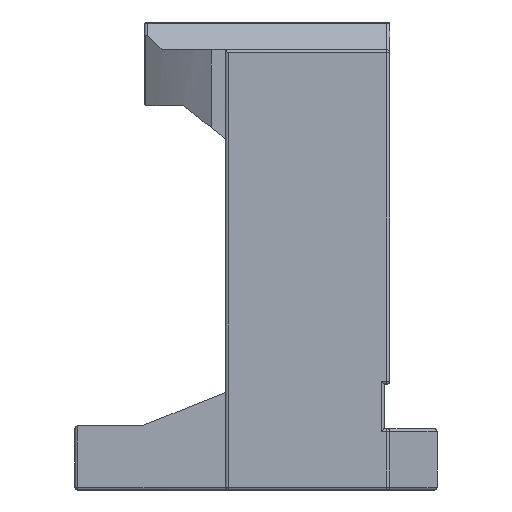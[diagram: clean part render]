
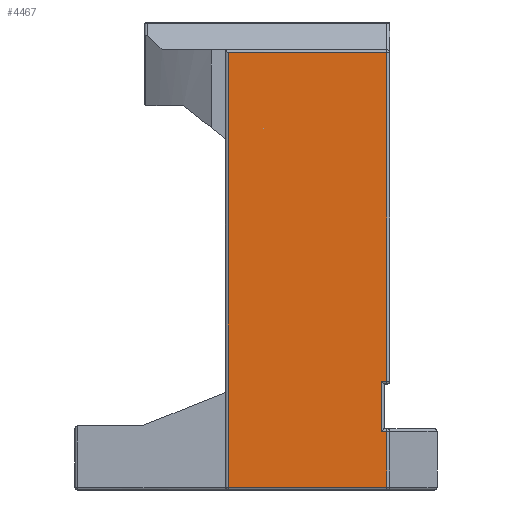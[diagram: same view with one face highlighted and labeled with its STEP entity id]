
A CAD part, left-side view. The second image highlights one B-rep face of the part: STEP entity #4467.
In plain terms, the highlighted planar face has unit normal (-1, 0, 0).
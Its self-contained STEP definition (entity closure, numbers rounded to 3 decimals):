
#160 = LINE ( 'NONE', #1515, #4992 ) ;
#319 = VECTOR ( 'NONE', #4085, 1000. ) ;
#434 = DIRECTION ( 'NONE',  ( 0., -1., 0. ) ) ;
#502 = DIRECTION ( 'NONE',  ( 0., 0., 1. ) ) ;
#645 = EDGE_CURVE ( 'NONE', #4761, #806, #1297, .T. ) ;
#712 = VERTEX_POINT ( 'NONE', #4278 ) ;
#787 = ORIENTED_EDGE ( 'NONE', *, *, #2592, .T. ) ;
#806 = VERTEX_POINT ( 'NONE', #3774 ) ;
#935 = DIRECTION ( 'NONE',  ( 0., 1., 0. ) ) ;
#1046 = VERTEX_POINT ( 'NONE', #3502 ) ;
#1064 = VECTOR ( 'NONE', #2744, 1000. ) ;
#1297 = LINE ( 'NONE', #1504, #319 ) ;
#1504 = CARTESIAN_POINT ( 'NONE',  ( -75., -45., 23. ) ) ;
#1515 = CARTESIAN_POINT ( 'NONE',  ( -75., 10., 23. ) ) ;
#1529 = CARTESIAN_POINT ( 'NONE',  ( -75., -47., 21. ) ) ;
#1568 = CARTESIAN_POINT ( 'NONE',  ( -75., 10., 157. ) ) ;
#1718 = DIRECTION ( 'NONE',  ( 0., 1., 0. ) ) ;
#1874 = DIRECTION ( 'NONE',  ( 0., 0., 1. ) ) ;
#2103 = EDGE_CURVE ( 'NONE', #712, #1046, #2496, .T. ) ;
#2183 = VECTOR ( 'NONE', #502, 1000. ) ;
#2212 = VECTOR ( 'NONE', #5241, 1000. ) ;
#2420 = VERTEX_POINT ( 'NONE', #4582 ) ;
#2496 = LINE ( 'NONE', #6223, #2637 ) ;
#2592 = EDGE_CURVE ( 'NONE', #806, #3797, #3497, .T. ) ;
#2616 = EDGE_CURVE ( 'NONE', #1046, #2803, #5919, .T. ) ;
#2637 = VECTOR ( 'NONE', #434, 1000. ) ;
#2658 = PLANE ( 'NONE',  #3043 ) ;
#2744 = DIRECTION ( 'NONE',  ( 0., 1., 0. ) ) ;
#2803 = VERTEX_POINT ( 'NONE', #1529 ) ;
#2805 = ORIENTED_EDGE ( 'NONE', *, *, #3985, .T. ) ;
#2837 = ORIENTED_EDGE ( 'NONE', *, *, #5402, .T. ) ;
#3043 = AXIS2_PLACEMENT_3D ( 'NONE', #3150, #4619, #1718 ) ;
#3045 = ORIENTED_EDGE ( 'NONE', *, *, #645, .T. ) ;
#3150 = CARTESIAN_POINT ( 'NONE',  ( -75., 72.5, 23. ) ) ;
#3237 = LINE ( 'NONE', #3335, #4380 ) ;
#3289 = CARTESIAN_POINT ( 'NONE',  ( -75., 72.5, 39. ) ) ;
#3306 = CARTESIAN_POINT ( 'NONE',  ( -75., -47., 22. ) ) ;
#3335 = CARTESIAN_POINT ( 'NONE',  ( -75., 72.5, 21. ) ) ;
#3497 = LINE ( 'NONE', #3289, #2212 ) ;
#3502 = CARTESIAN_POINT ( 'NONE',  ( -75., -47., 1. ) ) ;
#3772 = LINE ( 'NONE', #4708, #1064 ) ;
#3774 = CARTESIAN_POINT ( 'NONE',  ( -75., -45., 39. ) ) ;
#3797 = VERTEX_POINT ( 'NONE', #4049 ) ;
#3876 = CARTESIAN_POINT ( 'NONE',  ( -75., -47., 23. ) ) ;
#3985 = EDGE_CURVE ( 'NONE', #2420, #4271, #3772, .T. ) ;
#4049 = CARTESIAN_POINT ( 'NONE',  ( -75., -47., 39. ) ) ;
#4085 = DIRECTION ( 'NONE',  ( 0., 0., 1. ) ) ;
#4271 = VERTEX_POINT ( 'NONE', #1568 ) ;
#4278 = CARTESIAN_POINT ( 'NONE',  ( -75., 10., 1. ) ) ;
#4380 = VECTOR ( 'NONE', #935, 1000. ) ;
#4467 = ADVANCED_FACE ( 'NONE', ( #4764 ), #2658, .F. ) ;
#4582 = CARTESIAN_POINT ( 'NONE',  ( -75., -47., 157. ) ) ;
#4619 = DIRECTION ( 'NONE',  ( 1., 0., 0. ) ) ;
#4643 = EDGE_CURVE ( 'NONE', #4271, #712, #160, .T. ) ;
#4708 = CARTESIAN_POINT ( 'NONE',  ( -75., 72.5, 157. ) ) ;
#4761 = VERTEX_POINT ( 'NONE', #5719 ) ;
#4764 = FACE_OUTER_BOUND ( 'NONE', #5108, .T. ) ;
#4777 = EDGE_CURVE ( 'NONE', #2803, #4761, #3237, .T. ) ;
#4877 = ORIENTED_EDGE ( 'NONE', *, *, #2616, .T. ) ;
#4992 = VECTOR ( 'NONE', #5864, 1000. ) ;
#5108 = EDGE_LOOP ( 'NONE', ( #4877, #5574, #3045, #787, #2837, #2805, #5704, #5479 ) ) ;
#5241 = DIRECTION ( 'NONE',  ( 0., -1., 0. ) ) ;
#5402 = EDGE_CURVE ( 'NONE', #3797, #2420, #5883, .T. ) ;
#5479 = ORIENTED_EDGE ( 'NONE', *, *, #2103, .T. ) ;
#5574 = ORIENTED_EDGE ( 'NONE', *, *, #4777, .T. ) ;
#5704 = ORIENTED_EDGE ( 'NONE', *, *, #4643, .T. ) ;
#5719 = CARTESIAN_POINT ( 'NONE',  ( -75., -45., 21. ) ) ;
#5755 = VECTOR ( 'NONE', #1874, 1000. ) ;
#5864 = DIRECTION ( 'NONE',  ( 0., 0., -1. ) ) ;
#5883 = LINE ( 'NONE', #3876, #2183 ) ;
#5919 = LINE ( 'NONE', #3306, #5755 ) ;
#6223 = CARTESIAN_POINT ( 'NONE',  ( -75., 72.5, 1. ) ) ;
